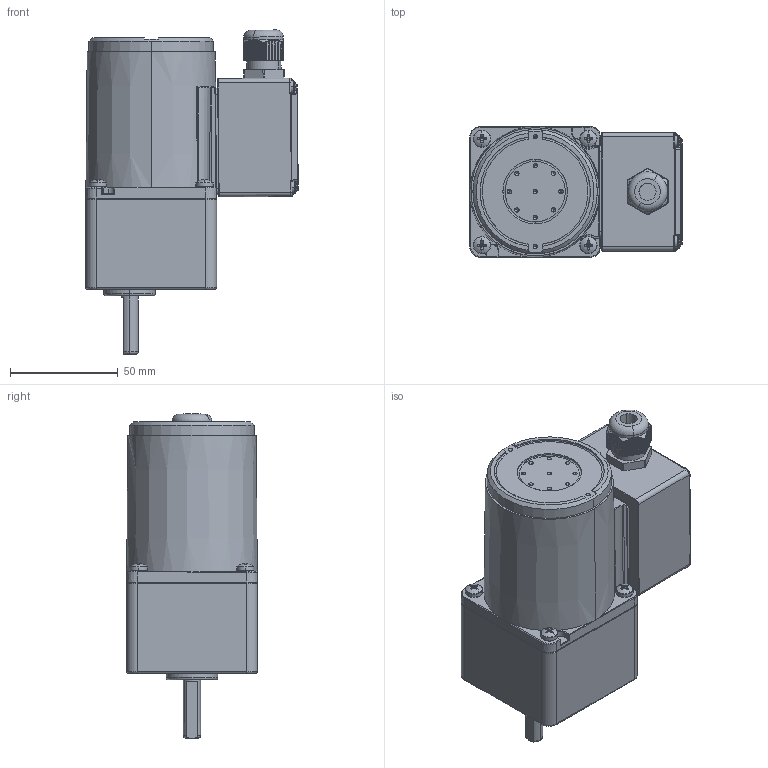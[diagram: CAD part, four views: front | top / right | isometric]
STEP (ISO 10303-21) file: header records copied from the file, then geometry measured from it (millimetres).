
FILE_DESCRIPTION (( 'STEP AP203' ), '1' );
FILE_NAME ('2TK3GN-CT(2GN3K-200K).STEP', '2023-08-07T07:50:54', ( 'Windows User' ), ( 'P R C' ), 'SwSTEP 2.0', 'SolidWorks 2019', '' );
FILE_SCHEMA (( 'CONFIG_CONTROL_DESIGN' ));
Length unit declared in the file: millimetre
Products named in the file (11): 2TK3GN-CT(2GN3K-200K); 2TK3GN-CT(2GN3K-200K)(2)^2TK3GN-CT(2GN3K-200K); ^___2TK3GN-CT(2GN3K-200K)(2)_2TK3GN-CT(2GN3K-200K); ^__2TK3GN-CT(2GN3K-200K)(2)_2TK3GN-CT(2GN3K-200K); 葩璃 (2) ^___2TK3GN-CT(2GN3K-200K)(2)_2TK3GN-CT(2GN3K-200K); ^2TK3GN-CT(2GN3K-200K)(2)_2TK3GN-CT(2GN3K-200K); 葩璃 (3) ^___2TK3GN-CT(2GN3K-200K)(2)_2TK3GN-CT(2GN3K-200K); ^_2TK3GN-CT(2GN3K-200K)(2)_2TK3GN-CT(2GN3K-200K); 2GN3K-200K^2TK3GN-CT(2GN3K-200K)(2)_2TK3GN-CT(2GN3K-200K)
Assembly tree (16 placements, depth 6):
  2TK3GN-CT(2GN3K-200K)
    2TK3GN-CT(2GN3K-200K)(2)^2TK3GN-CT(2GN3K-200K)
      ^2TK3GN-CT(2GN3K-200K)(2)_2TK3GN-CT(2GN3K-200K)
        ^_2TK3GN-CT(2GN3K-200K)(2)_2TK3GN-CT(2GN3K-200K)
          ^__2TK3GN-CT(2GN3K-200K)(2)_2TK3GN-CT(2GN3K-200K)
            ^___2TK3GN-CT(2GN3K-200K)(2)_2TK3GN-CT(2GN3K-200K)
            葩璃 (2) ^___2TK3GN-CT(2GN3K-200K)(2)_2TK3GN-CT(2GN3K-200K)
            葩璃 (3) ^___2TK3GN-CT(2GN3K-200K)(2)_2TK3GN-CT(2GN3K-200K)  x4
          ^__2TK3GN-CT(2GN3K-200K)(2)_2TK3GN-CT(2GN3K-200K)
        ^_2TK3GN-CT(2GN3K-200K)(2)_2TK3GN-CT(2GN3K-200K)  x4
      2GN3K-200K^2TK3GN-CT(2GN3K-200K)(2)_2TK3GN-CT(2GN3K-200K)
Bounding box: 98.76 x 60.8 x 150.65 mm (x, y, z)
Volume: 445198.4 mm3; surface area: 72723.7 mm2
Topology: 12 solids, 13 shells, 1815 faces, 4671 edges, 2865 vertices
Faces by surface type: cone 725, cylinder 604, plane 296, torus 103, bspline 53, sphere 34
Entity records: 34233 total; most frequent: CARTESIAN_POINT 10567, DIRECTION 4838, ORIENTED_EDGE 4706, EDGE_CURVE 2353, AXIS2_PLACEMENT_3D 2009, VERTEX_POINT 1458, CIRCLE 1097, EDGE_LOOP 993
